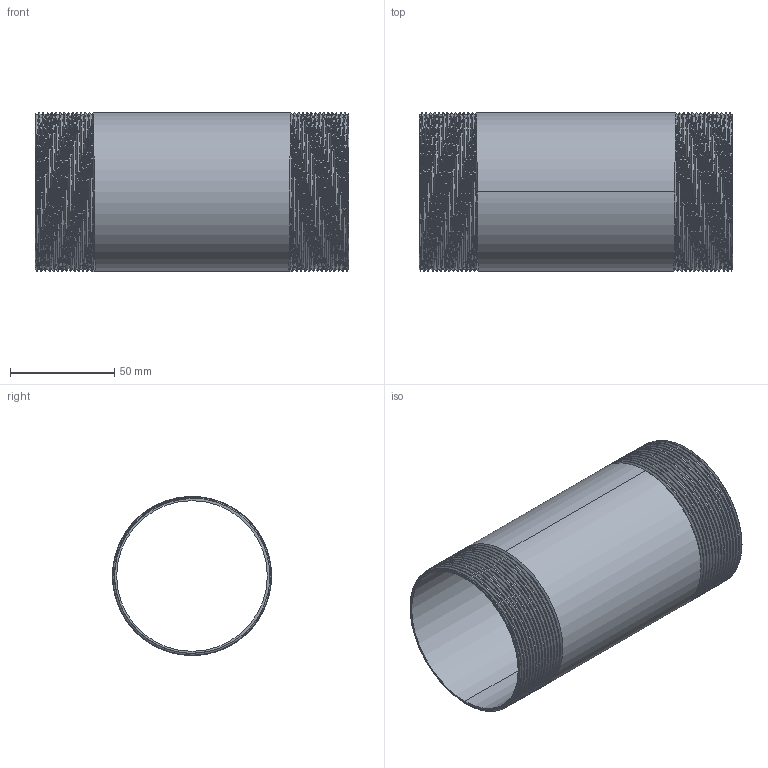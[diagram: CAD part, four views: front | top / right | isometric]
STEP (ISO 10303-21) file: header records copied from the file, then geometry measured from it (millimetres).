
FILE_DESCRIPTION (( 'STEP AP203' ), '1' );
FILE_NAME ('3D_R210_2 1-2x150_17185900.STEP', '2024-08-16T13:56:17', ( '' ), ( '' ), 'SwSTEP 2.0', 'SolidWorks 2024', '' );
FILE_SCHEMA (( 'CONFIG_CONTROL_DESIGN' ));
Length unit declared in the file: millimetre
Products named in the file (1): 3D_R210_2 1-2x150_17185900
Bounding box: 150 x 76.1 x 76.1 mm (x, y, z)
Volume: 61570.4 mm3; surface area: 77715.4 mm2
Topology: 1 solids, 1 shells, 72 faces, 204 edges, 134 vertices
Faces by surface type: cone 58, bspline 6, cylinder 4, plane 4
Entity records: 14195 total; most frequent: CARTESIAN_POINT 12523, ORIENTED_EDGE 408, DIRECTION 220, EDGE_CURVE 204, VERTEX_POINT 134, B_SPLINE_CURVE_WITH_KNOTS 120, AXIS2_PLACEMENT_3D 77, EDGE_LOOP 74
